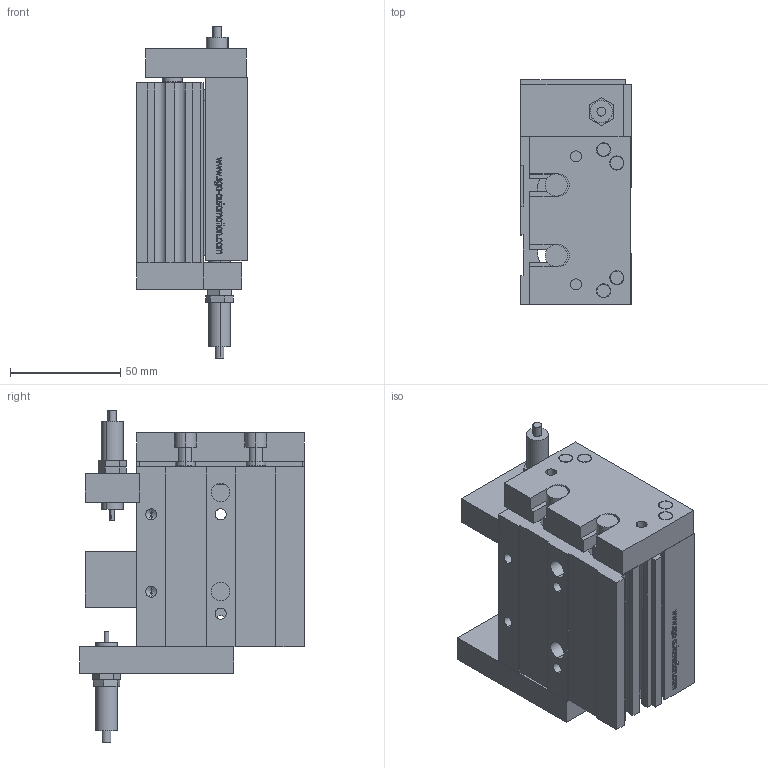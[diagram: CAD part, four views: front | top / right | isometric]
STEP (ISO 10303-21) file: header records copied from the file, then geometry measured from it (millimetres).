
FILE_DESCRIPTION (( 'STEP AP203' ), '1' );
FILE_NAME ('GDX 20-20.STEP', '2013-02-27T09:43:30', ( 'Conseil Régional Haute-Normandie' ), ( 'Conseil Régional Haute-Normandie' ), 'SwSTEP 2.0', 'SolidWorks 2010', '' );
FILE_SCHEMA (( 'CONFIG_CONTROL_DESIGN' ));
Length unit declared in the file: millimetre
Products named in the file (14): GDX 20-20; Pièce11 GDX 20-10_Default; Pièce9 GDX 20-10_Default; Pièce1 GDX 20-10_Default; Pièce16 GDX 20-10_Default; Pièce15 GDX 20-10_Default; Pièce 12 GDX 20-20_Default; Pièce 10 GDX 20-10_Default; Pièce14 GDX 20-10_Default; Pièce13 GDX 20-10_Default; Pièce7 GDX 20-10_Default; Pièce4 GDX 20-10_Default; Pièce3 GDX 20-10_Default; Pièce2 GDX 20-10_Default
Assembly tree (29 placements, depth 2):
  GDX 20-20
    Pièce3 GDX 20-10_Default
    Pièce16 GDX 20-10_Default  x4
    Pièce13 GDX 20-10_Default  x2
    Pièce15 GDX 20-10_Default  x8
    Pièce1 GDX 20-10_Default
    Pièce14 GDX 20-10_Default  x4
    Pièce 10 GDX 20-10_Default
    Pièce4 GDX 20-10_Default  x2
    Pièce11 GDX 20-10_Default
    Pièce 12 GDX 20-20_Default
    Pièce9 GDX 20-10_Default  x2
    Pièce7 GDX 20-10_Default
    Pièce2 GDX 20-10_Default
Bounding box: 50 x 102 x 150.52 mm (x, y, z)
Volume: 330111.7 mm3; surface area: 107711 mm2
Topology: 29 solids, 29 shells, 764 faces, 1932 edges, 1254 vertices
Faces by surface type: plane 389, cylinder 202, bspline 133, cone 40
Entity records: 31074 total; most frequent: CARTESIAN_POINT 14266, ORIENTED_EDGE 3240, DIRECTION 2684, EDGE_CURVE 1620, VERTEX_POINT 1073, LINE 1070, VECTOR 1070, AXIS2_PLACEMENT_3D 807
